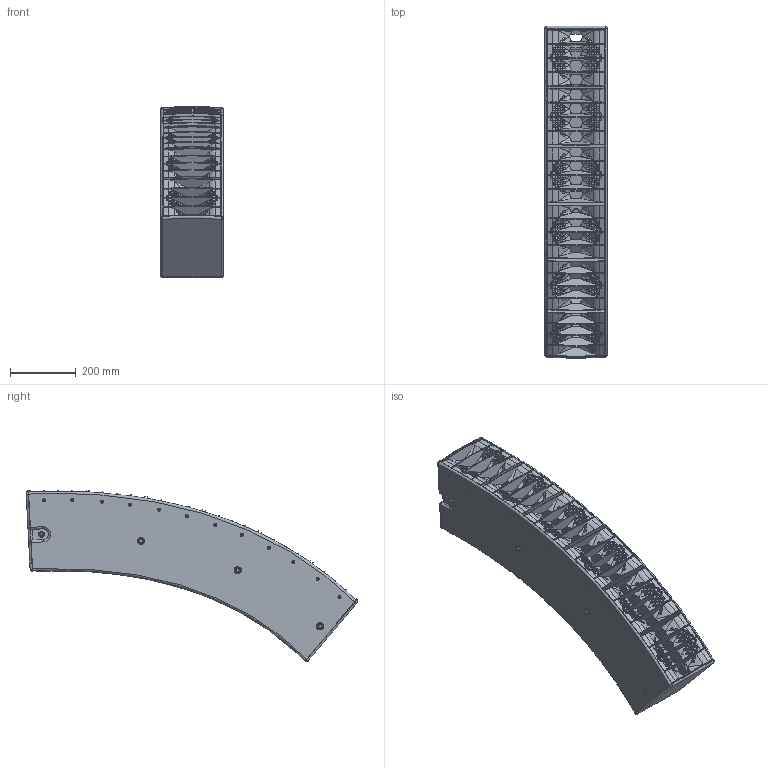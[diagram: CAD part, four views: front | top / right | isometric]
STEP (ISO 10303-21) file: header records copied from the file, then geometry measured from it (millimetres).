
FILE_DESCRIPTION (( 'STEP AP203' ), '1' );
FILE_NAME ('GL24j1.STEP', '2015-07-15T09:30:15', ( 'Michael Anter' ), ( 'SEEBURG acoustic line GmbH' ), 'SwSTEP 2.0', 'SolidWorks 2009', '' );
FILE_SCHEMA (( 'CONFIG_CONTROL_DESIGN' ));
Length unit declared in the file: millimetre
Products named in the file (12): GL24j1; GL24j_Deckel; GL24j_Boden; GL24j_Seitenteil-rechts; GL24j_Seitenteil-links; GL24j_Tunnel; GL24j_Rückwand; GL24j_Gegenplatte_M10-rechts; GL24j_Gegenplatte_M10-links; GL4-Horn; m10_flansch_assym_neu; ASF
Assembly tree (24 placements, depth 2):
  GL24j1
    GL4-Horn  x6
    m10_flansch_assym_neu  x9
    GL24j_Gegenplatte_M10-links
    GL24j_Boden
    GL24j_Gegenplatte_M10-rechts
    ASF
    GL24j_Tunnel
    GL24j_Seitenteil-rechts
    GL24j_Rückwand
    GL24j_Seitenteil-links
    GL24j_Deckel
Bounding box: 189 x 1005.61 x 519.41 mm (x, y, z)
Volume: 12538401 mm3; surface area: 2734541.3 mm2
Topology: 26 solids, 26 shells, 2229 faces, 7122 edges, 4594 vertices
Faces by surface type: cylinder 1260, plane 575, bspline 200, cone 168, sphere 14, torus 12
Entity records: 33442 total; most frequent: CARTESIAN_POINT 14890, ORIENTED_EDGE 3742, DIRECTION 3326, EDGE_CURVE 1871, AXIS2_PLACEMENT_3D 1243, VERTEX_POINT 1198, LINE 840, VECTOR 840
